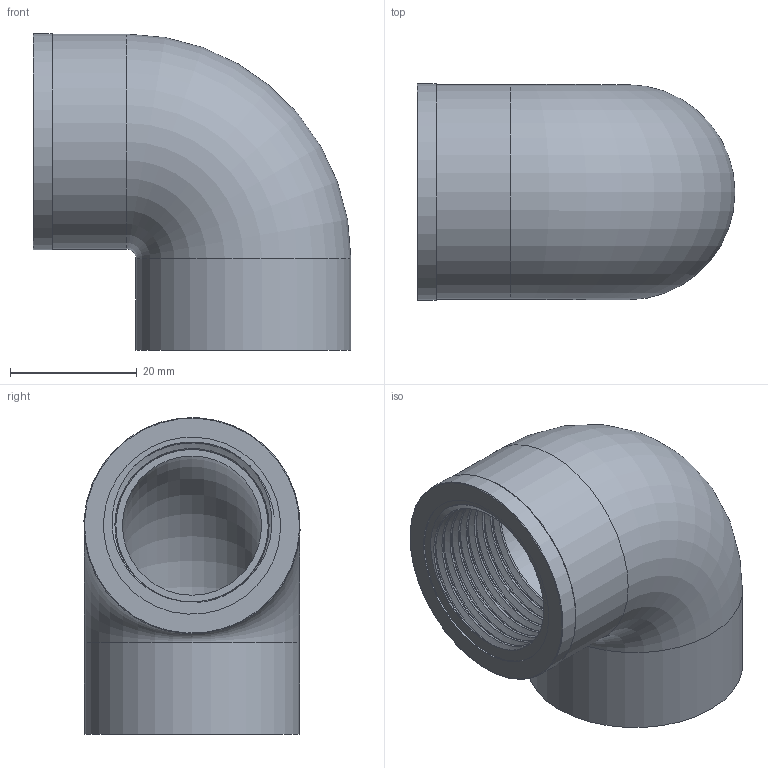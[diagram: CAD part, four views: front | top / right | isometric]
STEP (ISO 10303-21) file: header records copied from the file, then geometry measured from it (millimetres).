
FILE_DESCRIPTION(/* description */ (''),/* implementation_level */ '2;1');
FILE_NAME(/* name */ 'C:\Users\POLYPIPE\Desktop\DATASET INVENTOR\LIBRERIA EFFAST\RACCORDI 3DxWEB\RGR\3D_RGRGOR\3D_RGRGOR025C.stp',/* time_stamp */ '2018-01-19T17:46:37+01:00',/* author */ ('POLYPIPE'),/* organization */ (''),/* preprocessor_version */ 'ST-DEVELOPER v16.1',/* originating_system */ 'Autodesk Inventor 2016',/* authorisation */ '');
FILE_SCHEMA (('CONFIG_CONTROL_DESIGN'));
Length unit declared in the file: centimetre
Products named in the file (1): 3D_RGRGOR025C
Bounding box: 50.25 x 34.16 x 50.08 mm (x, y, z)
Volume: 25763 mm3; surface area: 12639.3 mm2
Topology: 1 solids, 1 shells, 21 faces, 41 edges, 26 vertices
Faces by surface type: plane 7, cylinder 6, bspline 5, torus 3
Full cylindrical faces by diameter (mm): 24.117 x1, 25 x1, 28 x1, 34 x2, 34.2 x1
Entity records: 3738 total; most frequent: CARTESIAN_POINT 3304, DIRECTION 71, ORIENTED_EDGE 62, EDGE_LOOP 36, AXIS2_PLACEMENT_3D 34, EDGE_CURVE 31, VERTEX_POINT 25, STYLED_ITEM 22
